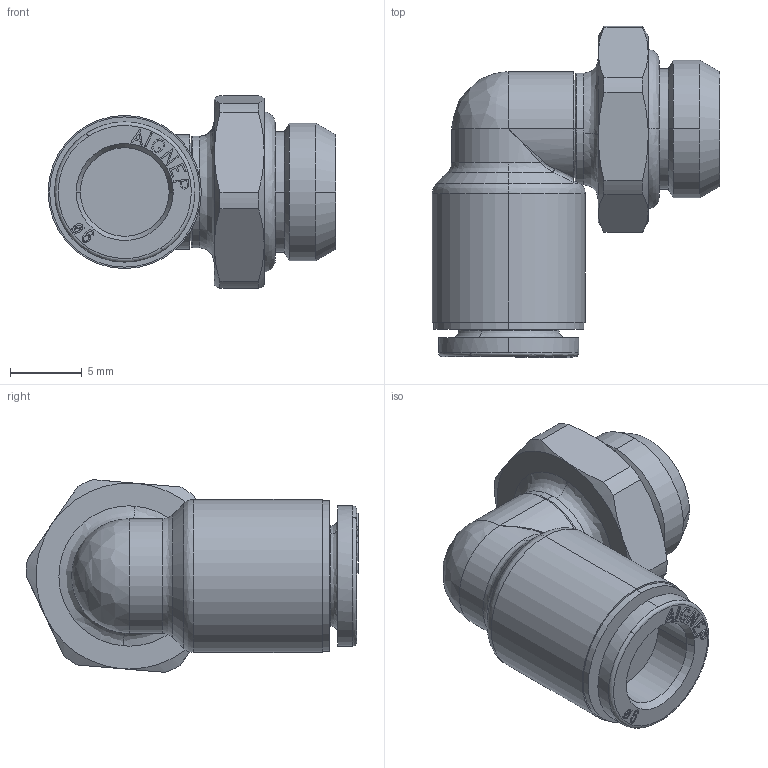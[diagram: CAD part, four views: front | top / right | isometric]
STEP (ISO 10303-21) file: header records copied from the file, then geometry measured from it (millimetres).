
FILE_DESCRIPTION (( 'STEP AP214' ), '1' );
FILE_NAME ('5611500009.STEP', '2015-12-28T07:30:28', ( 'ST01' ), ( '' ), 'SwSTEP 2.0', 'SolidWorks 2015', '' );
FILE_SCHEMA (( 'AUTOMOTIVE_DESIGN' ));
Length unit declared in the file: millimetre
Products named in the file (1): 5611500009
Bounding box: 20.1 x 23.2 x 13.47 mm (x, y, z)
Volume: 2229.4 mm3; surface area: 1827.6 mm2
Topology: 3 solids, 3 shells, 327 faces, 859 edges, 557 vertices
Faces by surface type: plane 143, bspline 112, cylinder 39, cone 33
Entity records: 14488 total; most frequent: CARTESIAN_POINT 6004, ORIENTED_EDGE 1712, DIRECTION 1191, EDGE_CURVE 856, VERTEX_POINT 557, VECTOR 465, LINE 465, AXIS2_PLACEMENT_3D 363
